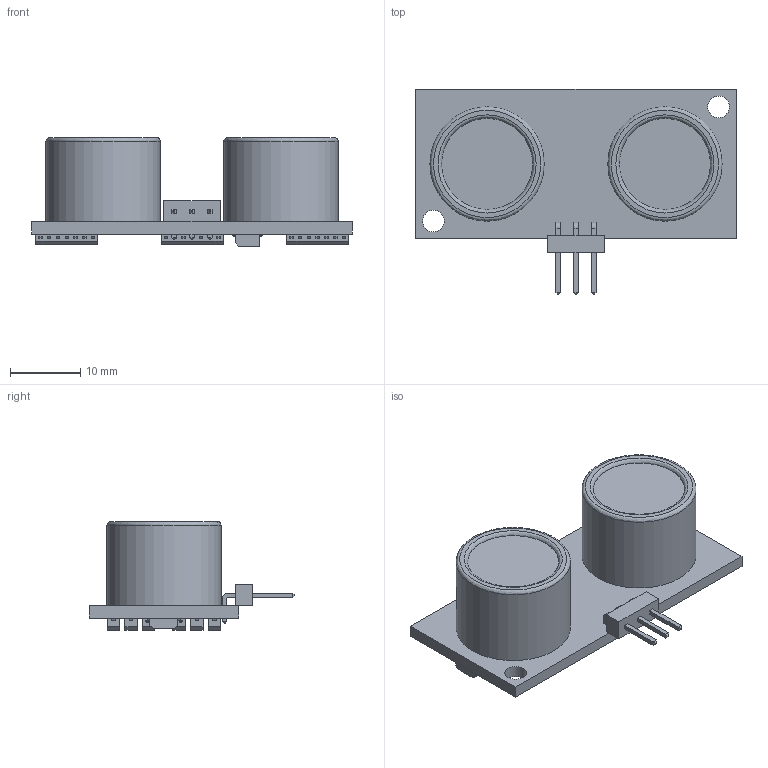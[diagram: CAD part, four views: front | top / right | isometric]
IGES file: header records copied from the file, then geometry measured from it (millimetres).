
Global section: file name: No Iges File Name specified; native system: AutoDesk Inventor R6.0; preprocessor: AutoDesk Inventor Iges Exporter R6.0; author: No Author specified; organization: No Organization specified; date: 20080102.165231; units: inch
Bounding box: 45.7 x 29.3 x 15.5 mm (x, y, z)
Surface area: 5010.8 mm2 (no closed solid volume)
Topology: 0 solids, 0 shells, 872 faces, 4646 edges, 4638 vertices
Faces by surface type: plane 391, bspline 361, revolution 120
